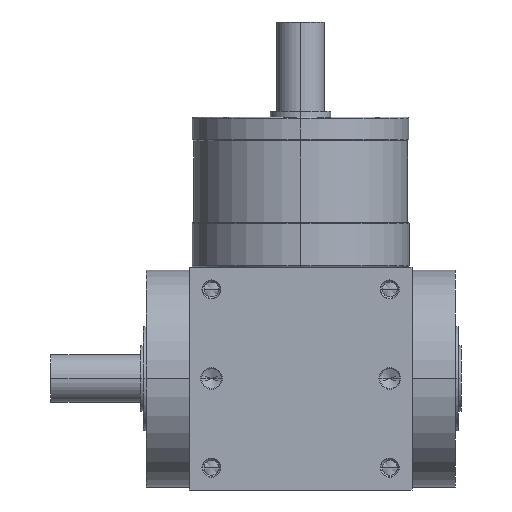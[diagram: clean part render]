
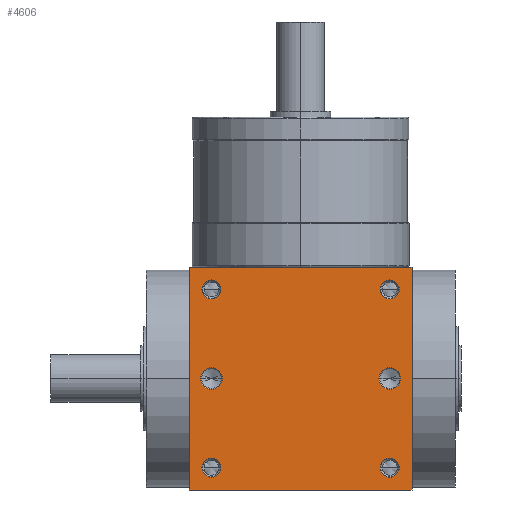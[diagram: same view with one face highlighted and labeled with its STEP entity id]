
A CAD part, front view. The second image highlights one B-rep face of the part: STEP entity #4606.
In plain terms, the highlighted planar face has unit normal (0, -1, 0).
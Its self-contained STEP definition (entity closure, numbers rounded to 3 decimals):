
#5=DIRECTION('',(1.,0.,0.));
#6=VECTOR('',#5,75.);
#7=CARTESIAN_POINT('',(-37.5,-37.5,-37.5));
#8=LINE('',#7,#6);
#155=DIRECTION('',(0.,0.,1.));
#156=VECTOR('',#155,75.);
#157=CARTESIAN_POINT('',(37.5,-37.5,-37.5));
#158=LINE('',#157,#156);
#209=DIRECTION('',(0.,0.,1.));
#210=VECTOR('',#209,75.);
#211=CARTESIAN_POINT('',(-37.5,-37.5,-37.5));
#212=LINE('',#211,#210);
#213=CARTESIAN_POINT('',(30.,-37.5,30.));
#214=DIRECTION('',(0.,1.,0.));
#215=DIRECTION('',(-1.,0.,0.));
#216=AXIS2_PLACEMENT_3D('',#213,#214,#215);
#218=CARTESIAN_POINT('',(30.,-37.5,30.));
#219=DIRECTION('',(0.,1.,0.));
#220=DIRECTION('',(1.,0.,0.));
#221=AXIS2_PLACEMENT_3D('',#218,#219,#220);
#223=CARTESIAN_POINT('',(-30.,-37.5,30.));
#224=DIRECTION('',(0.,1.,0.));
#225=DIRECTION('',(-1.,0.,0.));
#226=AXIS2_PLACEMENT_3D('',#223,#224,#225);
#228=CARTESIAN_POINT('',(-30.,-37.5,30.));
#229=DIRECTION('',(0.,1.,0.));
#230=DIRECTION('',(1.,0.,0.));
#231=AXIS2_PLACEMENT_3D('',#228,#229,#230);
#233=CARTESIAN_POINT('',(30.,-37.5,-30.));
#234=DIRECTION('',(0.,1.,0.));
#235=DIRECTION('',(-1.,0.,0.));
#236=AXIS2_PLACEMENT_3D('',#233,#234,#235);
#238=CARTESIAN_POINT('',(30.,-37.5,-30.));
#239=DIRECTION('',(0.,1.,0.));
#240=DIRECTION('',(1.,0.,0.));
#241=AXIS2_PLACEMENT_3D('',#238,#239,#240);
#243=CARTESIAN_POINT('',(-30.,-37.5,-30.));
#244=DIRECTION('',(0.,1.,0.));
#245=DIRECTION('',(-1.,0.,0.));
#246=AXIS2_PLACEMENT_3D('',#243,#244,#245);
#248=CARTESIAN_POINT('',(-30.,-37.5,-30.));
#249=DIRECTION('',(0.,1.,0.));
#250=DIRECTION('',(1.,0.,0.));
#251=AXIS2_PLACEMENT_3D('',#248,#249,#250);
#253=CARTESIAN_POINT('',(-30.,-37.5,0.));
#254=DIRECTION('',(0.,1.,0.));
#255=DIRECTION('',(1.,0.,0.));
#256=AXIS2_PLACEMENT_3D('',#253,#254,#255);
#258=CARTESIAN_POINT('',(-30.,-37.5,0.));
#259=DIRECTION('',(0.,1.,0.));
#260=DIRECTION('',(-1.,0.,0.));
#261=AXIS2_PLACEMENT_3D('',#258,#259,#260);
#263=CARTESIAN_POINT('',(30.,-37.5,0.));
#264=DIRECTION('',(0.,1.,0.));
#265=DIRECTION('',(1.,0.,0.));
#266=AXIS2_PLACEMENT_3D('',#263,#264,#265);
#268=CARTESIAN_POINT('',(30.,-37.5,0.));
#269=DIRECTION('',(0.,1.,0.));
#270=DIRECTION('',(-1.,0.,0.));
#271=AXIS2_PLACEMENT_3D('',#268,#269,#270);
#285=DIRECTION('',(1.,0.,0.));
#286=VECTOR('',#285,75.);
#287=CARTESIAN_POINT('',(-37.5,-37.5,37.5));
#288=LINE('',#287,#286);
#3690=CARTESIAN_POINT('',(-37.5,-37.5,-37.5));
#3692=VERTEX_POINT('',#3690);
#3693=CARTESIAN_POINT('',(37.5,-37.5,-37.5));
#3694=VERTEX_POINT('',#3693);
#3698=CARTESIAN_POINT('',(-37.5,-37.5,37.5));
#3700=VERTEX_POINT('',#3698);
#3701=CARTESIAN_POINT('',(37.5,-37.5,37.5));
#3702=VERTEX_POINT('',#3701);
#3869=CARTESIAN_POINT('',(26.8,-37.5,30.));
#3870=CARTESIAN_POINT('',(33.2,-37.5,30.));
#3871=VERTEX_POINT('',#3869);
#3872=VERTEX_POINT('',#3870);
#3877=CARTESIAN_POINT('',(-33.2,-37.5,30.));
#3878=CARTESIAN_POINT('',(-26.8,-37.5,30.));
#3879=VERTEX_POINT('',#3877);
#3880=VERTEX_POINT('',#3878);
#3885=CARTESIAN_POINT('',(26.8,-37.5,-30.));
#3886=CARTESIAN_POINT('',(33.2,-37.5,-30.));
#3887=VERTEX_POINT('',#3885);
#3888=VERTEX_POINT('',#3886);
#3893=CARTESIAN_POINT('',(-33.2,-37.5,-30.));
#3894=CARTESIAN_POINT('',(-26.8,-37.5,-30.));
#3895=VERTEX_POINT('',#3893);
#3896=VERTEX_POINT('',#3894);
#4235=CARTESIAN_POINT('',(-26.35,-37.5,0.));
#4236=CARTESIAN_POINT('',(-33.65,-37.5,
0.));
#4237=VERTEX_POINT('',#4235);
#4238=VERTEX_POINT('',#4236);
#4243=CARTESIAN_POINT('',(33.65,-37.5,0.));
#4244=CARTESIAN_POINT('',(26.35,-37.5,0.));
#4245=VERTEX_POINT('',#4243);
#4246=VERTEX_POINT('',#4244);
#4558=CARTESIAN_POINT('',(-37.5,-37.5,-37.5));
#4559=DIRECTION('',(0.,-1.,0.));
#4560=DIRECTION('',(1.,0.,0.));
#4561=AXIS2_PLACEMENT_3D('',#4558,#4559,#4560);
#4562=PLANE('',#4561);
#4563=ORIENTED_EDGE('',*,*,#4398,.F.);
#4564=ORIENTED_EDGE('',*,*,#4441,.T.);
#4566=ORIENTED_EDGE('',*,*,#4565,.T.);
#4567=ORIENTED_EDGE('',*,*,#4520,.F.);
#4568=EDGE_LOOP('',(#4563,#4564,#4566,#4567));
#4569=FACE_OUTER_BOUND('',#4568,.F.);
#4571=ORIENTED_EDGE('',*,*,#4570,.F.);
#4573=ORIENTED_EDGE('',*,*,#4572,.F.);
#4574=EDGE_LOOP('',(#4571,#4573));
#4575=FACE_BOUND('',#4574,.F.);
#4577=ORIENTED_EDGE('',*,*,#4576,.F.);
#4579=ORIENTED_EDGE('',*,*,#4578,.F.);
#4580=EDGE_LOOP('',(#4577,#4579));
#4581=FACE_BOUND('',#4580,.F.);
#4583=ORIENTED_EDGE('',*,*,#4582,.F.);
#4585=ORIENTED_EDGE('',*,*,#4584,.F.);
#4586=EDGE_LOOP('',(#4583,#4585));
#4587=FACE_BOUND('',#4586,.F.);
#4589=ORIENTED_EDGE('',*,*,#4588,.F.);
#4591=ORIENTED_EDGE('',*,*,#4590,.F.);
#4592=EDGE_LOOP('',(#4589,#4591));
#4593=FACE_BOUND('',#4592,.F.);
#4595=ORIENTED_EDGE('',*,*,#4594,.F.);
#4597=ORIENTED_EDGE('',*,*,#4596,.F.);
#4598=EDGE_LOOP('',(#4595,#4597));
#4599=FACE_BOUND('',#4598,.F.);
#4601=ORIENTED_EDGE('',*,*,#4600,.F.);
#4603=ORIENTED_EDGE('',*,*,#4602,.F.);
#4604=EDGE_LOOP('',(#4601,#4603));
#4605=FACE_BOUND('',#4604,.F.);
#4606=ADVANCED_FACE('',(#4569,#4575,#4581,#4587,#4593,#4599,#4605),#4562,.T.);
#217=CIRCLE('',#216,3.2);
#222=CIRCLE('',#221,3.2);
#227=CIRCLE('',#226,3.2);
#232=CIRCLE('',#231,3.2);
#237=CIRCLE('',#236,3.2);
#242=CIRCLE('',#241,3.2);
#247=CIRCLE('',#246,3.2);
#252=CIRCLE('',#251,3.2);
#257=CIRCLE('',#256,3.65);
#262=CIRCLE('',#261,3.65);
#267=CIRCLE('',#266,3.65);
#272=CIRCLE('',#271,3.65);
#4398=EDGE_CURVE('',#3692,#3694,#8,.T.);
#4441=EDGE_CURVE('',#3692,#3700,#212,.T.);
#4520=EDGE_CURVE('',#3694,#3702,#158,.T.);
#4565=EDGE_CURVE('',#3700,#3702,#288,.T.);
#4570=EDGE_CURVE('',#3871,#3872,#217,.T.);
#4572=EDGE_CURVE('',#3872,#3871,#222,.T.);
#4576=EDGE_CURVE('',#3879,#3880,#227,.T.);
#4578=EDGE_CURVE('',#3880,#3879,#232,.T.);
#4582=EDGE_CURVE('',#3887,#3888,#237,.T.);
#4584=EDGE_CURVE('',#3888,#3887,#242,.T.);
#4588=EDGE_CURVE('',#3895,#3896,#247,.T.);
#4590=EDGE_CURVE('',#3896,#3895,#252,.T.);
#4594=EDGE_CURVE('',#4237,#4238,#257,.T.);
#4596=EDGE_CURVE('',#4238,#4237,#262,.T.);
#4600=EDGE_CURVE('',#4245,#4246,#267,.T.);
#4602=EDGE_CURVE('',#4246,#4245,#272,.T.);
